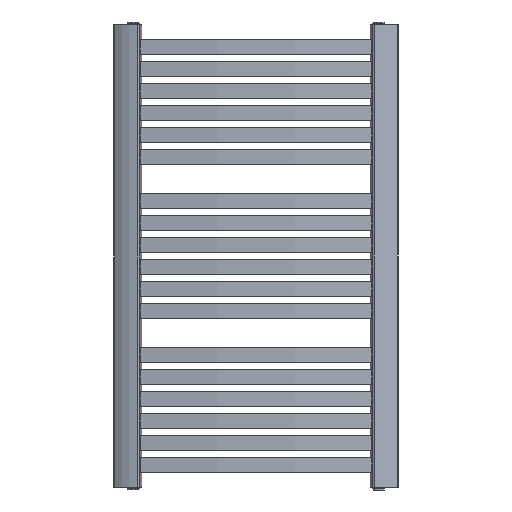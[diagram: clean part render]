
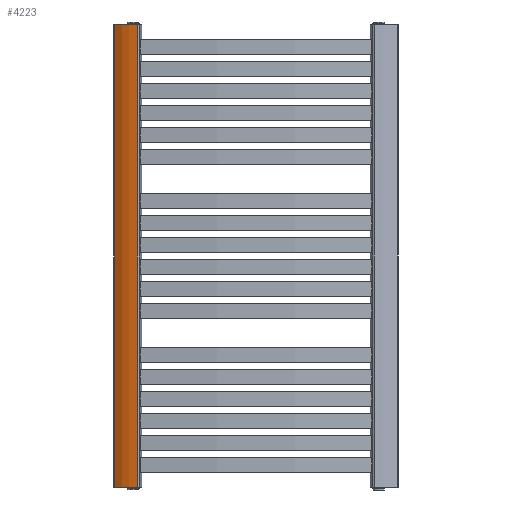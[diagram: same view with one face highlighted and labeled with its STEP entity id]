
A CAD part, left-side view. The second image highlights one B-rep face of the part: STEP entity #4223.
In plain terms, the highlighted cylindrical face has radius 101.419 mm (diameter 202.839 mm), a partial arc.
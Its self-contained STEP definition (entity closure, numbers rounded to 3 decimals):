
#289=CYLINDRICAL_SURFACE('',#4654,101.419);
#466=CIRCLE('',#4655,101.419);
#467=CIRCLE('',#4656,101.419);
#680=FACE_OUTER_BOUND('',#912,.T.);
#912=EDGE_LOOP('',(#3619,#3620,#3621,#3622));
#1319=LINE('',#7079,#1707);
#1325=LINE('',#7106,#1713);
#1707=VECTOR('',#5781,10.);
#1713=VECTOR('',#5813,10.);
#2089=VERTEX_POINT('',#7072);
#2092=VERTEX_POINT('',#7077);
#2099=VERTEX_POINT('',#7102);
#2100=VERTEX_POINT('',#7104);
#2656=EDGE_CURVE('',#2089,#2092,#1319,.T.);
#2668=EDGE_CURVE('',#2099,#2089,#466,.T.);
#2669=EDGE_CURVE('',#2100,#2092,#467,.T.);
#2670=EDGE_CURVE('',#2099,#2100,#1325,.T.);
#3619=ORIENTED_EDGE('',*,*,#2668,.T.);
#3620=ORIENTED_EDGE('',*,*,#2656,.T.);
#3621=ORIENTED_EDGE('',*,*,#2669,.F.);
#3622=ORIENTED_EDGE('',*,*,#2670,.F.);
#4223=ADVANCED_FACE('',(#680),#289,.T.);
#4654=AXIS2_PLACEMENT_3D('',#7101,#5807,#5808);
#4655=AXIS2_PLACEMENT_3D('',#7103,#5809,#5810);
#4656=AXIS2_PLACEMENT_3D('',#7105,#5811,#5812);
#5781=DIRECTION('',(0.,0.,1.));
#5807=DIRECTION('center_axis',(0.,0.,1.));
#5808=DIRECTION('ref_axis',(1.,-0.015,0.));
#5809=DIRECTION('center_axis',(0.,0.,1.));
#5810=DIRECTION('ref_axis',(1.,-0.015,0.));
#5811=DIRECTION('center_axis',(0.,0.,1.));
#5812=DIRECTION('ref_axis',(1.,-0.015,0.));
#5813=DIRECTION('',(0.,0.,1.));
#7072=CARTESIAN_POINT('',(5.308,22.798,0.));
#7077=CARTESIAN_POINT('',(5.308,22.798,945.));
#7079=CARTESIAN_POINT('',(5.308,22.798,0.));
#7101=CARTESIAN_POINT('Origin',(-84.408,-24.499,0.));
#7102=CARTESIAN_POINT('',(17.,-26.062,0.));
#7103=CARTESIAN_POINT('Origin',(-84.408,-24.499,0.));
#7104=CARTESIAN_POINT('',(17.,-26.062,945.));
#7105=CARTESIAN_POINT('Origin',(-84.408,-24.499,945.));
#7106=CARTESIAN_POINT('',(17.,-26.062,0.));
